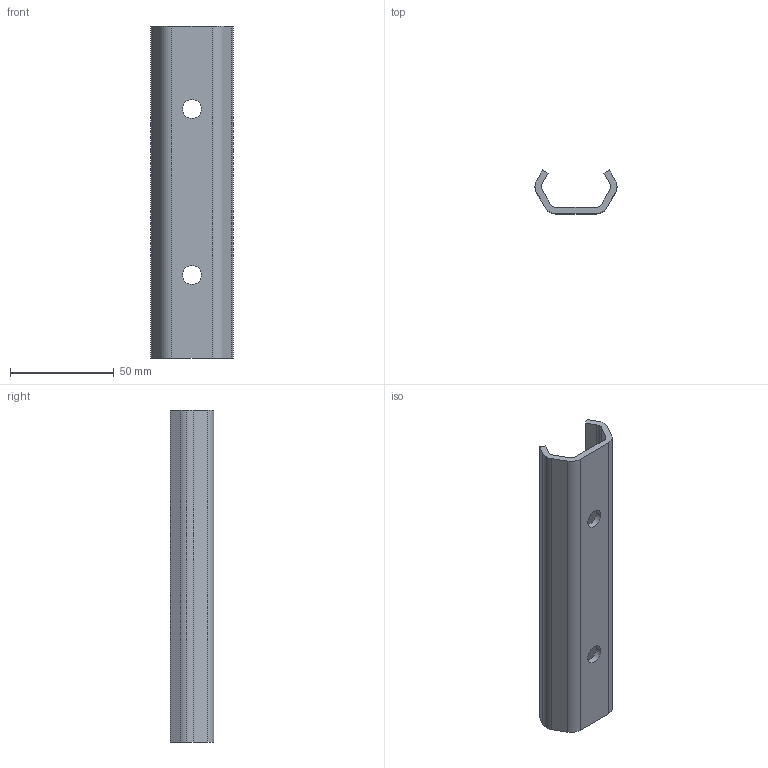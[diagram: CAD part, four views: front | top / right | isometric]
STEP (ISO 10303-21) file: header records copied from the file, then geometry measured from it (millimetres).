
FILE_DESCRIPTION(('STEP AP214'),'1');
FILE_NAME('rail_tex40-160.stp','2019-03-08T08:32:51',('TraceParts'),('TraceParts S.A.'),'Spatial InterOp 3D',' ',' ');
FILE_SCHEMA(('automotive_design'));
Length unit declared in the file: millimetre
Products named in the file (1): rail_tex40-160
Bounding box: 39.53 x 21 x 160 mm (x, y, z)
Volume: 31264.6 mm3; surface area: 22421.3 mm2
Topology: 1 solids, 1 shells, 87 faces, 228 edges, 152 vertices
Faces by surface type: plane 60, cylinder 16, bspline 11
Entity records: 5073 total; most frequent: CARTESIAN_POINT 2235, ORIENTED_EDGE 456, DIRECTION 392, EDGE_CURVE 228, LINE 174, VECTOR 174, VERTEX_POINT 152, AXIS2_PLACEMENT_3D 109
